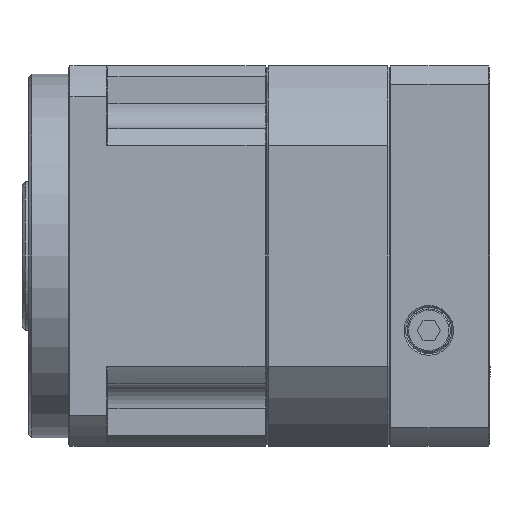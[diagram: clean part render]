
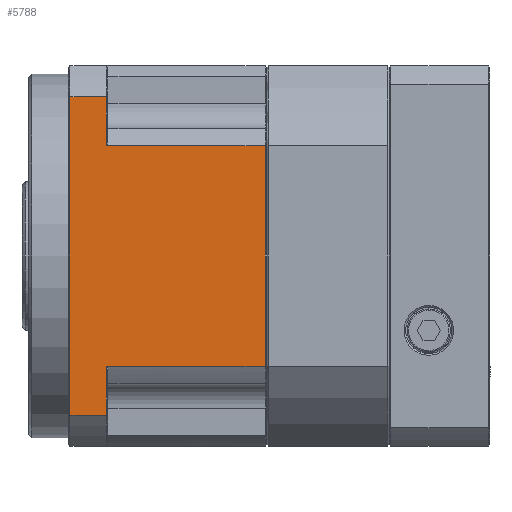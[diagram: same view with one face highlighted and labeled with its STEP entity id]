
A CAD part, left-side view. The second image highlights one B-rep face of the part: STEP entity #5788.
In plain terms, the highlighted planar face has unit normal (1, 0, 0).
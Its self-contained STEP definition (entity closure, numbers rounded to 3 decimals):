
#3031 = ORIENTED_EDGE ( 'NONE', *, *, #41736, .F. ) ;
#3339 = VECTOR ( 'NONE', #39950, 1000. ) ;
#3737 = FACE_OUTER_BOUND ( 'NONE', #84147, .T. ) ;
#4349 = EDGE_CURVE ( 'NONE', #78696, #60310, #38577, .T. ) ;
#5788 = ADVANCED_FACE ( 'NONE', ( #3737 ), #24322, .T. ) ;
#6533 = EDGE_CURVE ( 'NONE', #38793, #73601, #86800, .T. ) ;
#7310 = DIRECTION ( 'NONE',  ( 0., 1., 0. ) ) ;
#8746 = CARTESIAN_POINT ( 'NONE',  ( -57.5, -4.611, -33.407 ) ) ;
#10348 = AXIS2_PLACEMENT_3D ( 'NONE', #51083, #71512, #31086 ) ;
#11683 = LINE ( 'NONE', #20383, #45354 ) ;
#11771 = CARTESIAN_POINT ( 'NONE',  ( -57.5, 13.889, -48.153 ) ) ;
#11934 = CARTESIAN_POINT ( 'NONE',  ( -57.5, 13.889, -33.407 ) ) ;
#14127 = VECTOR ( 'NONE', #7310, 1000. ) ;
#19598 = CARTESIAN_POINT ( 'NONE',  ( -57.5, -34.111, 0. ) ) ;
#20383 = CARTESIAN_POINT ( 'NONE',  ( -57.5, -4.611, 48.153 ) ) ;
#21192 = LINE ( 'NONE', #19598, #3339 ) ;
#22021 = DIRECTION ( 'NONE',  ( 0., -1., 0. ) ) ;
#24322 = PLANE ( 'NONE',  #10348 ) ;
#26024 = CARTESIAN_POINT ( 'NONE',  ( -57.5, 24.889, -48.153 ) ) ;
#27197 = DIRECTION ( 'NONE',  ( 0., 1., 0. ) ) ;
#29329 = ORIENTED_EDGE ( 'NONE', *, *, #6533, .F. ) ;
#30496 = VERTEX_POINT ( 'NONE', #42625 ) ;
#31086 = DIRECTION ( 'NONE',  ( 0., 0., -1. ) ) ;
#32040 = LINE ( 'NONE', #74500, #14127 ) ;
#32976 = VECTOR ( 'NONE', #61829, 1000. ) ;
#33396 = VECTOR ( 'NONE', #40800, 1000. ) ;
#35613 = ORIENTED_EDGE ( 'NONE', *, *, #4349, .F. ) ;
#36442 = VECTOR ( 'NONE', #22021, 1000. ) ;
#38577 = LINE ( 'NONE', #8746, #36442 ) ;
#38793 = VERTEX_POINT ( 'NONE', #76778 ) ;
#39446 = VERTEX_POINT ( 'NONE', #85450 ) ;
#39950 = DIRECTION ( 'NONE',  ( 0., 0., 1. ) ) ;
#40523 = VERTEX_POINT ( 'NONE', #11771 ) ;
#40557 = EDGE_CURVE ( 'NONE', #30496, #39446, #76265, .T. ) ;
#40800 = DIRECTION ( 'NONE',  ( 0., 0., 1. ) ) ;
#41736 = EDGE_CURVE ( 'NONE', #44938, #38793, #11683, .T. ) ;
#42235 = DIRECTION ( 'NONE',  ( 0., 0., 1. ) ) ;
#42625 = CARTESIAN_POINT ( 'NONE',  ( -57.5, -34.111, 33.407 ) ) ;
#44938 = VERTEX_POINT ( 'NONE', #79115 ) ;
#45354 = VECTOR ( 'NONE', #27197, 1000. ) ;
#45490 = CARTESIAN_POINT ( 'NONE',  ( -57.5, -34.111, -33.407 ) ) ;
#51083 = CARTESIAN_POINT ( 'NONE',  ( -57.5, -34.111, 48.153 ) ) ;
#52375 = DIRECTION ( 'NONE',  ( 0., 1., 0. ) ) ;
#53576 = VECTOR ( 'NONE', #42235, 1000. ) ;
#54327 = ORIENTED_EDGE ( 'NONE', *, *, #86438, .T. ) ;
#55038 = CARTESIAN_POINT ( 'NONE',  ( -57.5, 24.889, 0. ) ) ;
#57605 = EDGE_CURVE ( 'NONE', #40523, #78696, #69325, .T. ) ;
#58241 = VECTOR ( 'NONE', #52375, 1000. ) ;
#60310 = VERTEX_POINT ( 'NONE', #45490 ) ;
#61829 = DIRECTION ( 'NONE',  ( 0., 0., -1. ) ) ;
#65441 = ORIENTED_EDGE ( 'NONE', *, *, #73006, .F. ) ;
#68518 = ORIENTED_EDGE ( 'NONE', *, *, #83520, .F. ) ;
#69325 = LINE ( 'NONE', #74435, #33396 ) ;
#71319 = ORIENTED_EDGE ( 'NONE', *, *, #40557, .F. ) ;
#71512 = DIRECTION ( 'NONE',  ( 1., 0., 0. ) ) ;
#73006 = EDGE_CURVE ( 'NONE', #60310, #30496, #21192, .T. ) ;
#73601 = VERTEX_POINT ( 'NONE', #26024 ) ;
#74435 = CARTESIAN_POINT ( 'NONE',  ( -57.5, 13.889, 0. ) ) ;
#74500 = CARTESIAN_POINT ( 'NONE',  ( -57.5, 19.389, -48.153 ) ) ;
#75913 = CARTESIAN_POINT ( 'NONE',  ( -57.5, 13.889, 0. ) ) ;
#76265 = LINE ( 'NONE', #79292, #58241 ) ;
#76778 = CARTESIAN_POINT ( 'NONE',  ( -57.5, 24.889, 48.153 ) ) ;
#77972 = LINE ( 'NONE', #75913, #53576 ) ;
#78696 = VERTEX_POINT ( 'NONE', #11934 ) ;
#79115 = CARTESIAN_POINT ( 'NONE',  ( -57.5, 13.889, 48.153 ) ) ;
#79292 = CARTESIAN_POINT ( 'NONE',  ( -57.5, -4.611, 33.407 ) ) ;
#82066 = ORIENTED_EDGE ( 'NONE', *, *, #57605, .F. ) ;
#83520 = EDGE_CURVE ( 'NONE', #39446, #44938, #77972, .T. ) ;
#84147 = EDGE_LOOP ( 'NONE', ( #68518, #71319, #65441, #35613, #82066, #54327, #29329, #3031 ) ) ;
#85450 = CARTESIAN_POINT ( 'NONE',  ( -57.5, 13.889, 33.407 ) ) ;
#86438 = EDGE_CURVE ( 'NONE', #40523, #73601, #32040, .T. ) ;
#86800 = LINE ( 'NONE', #55038, #32976 ) ;
